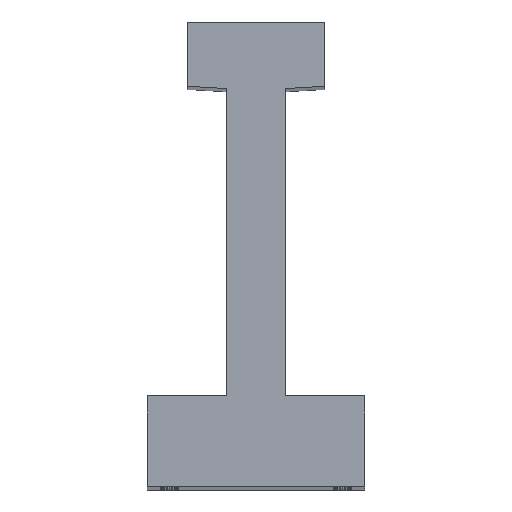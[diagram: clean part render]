
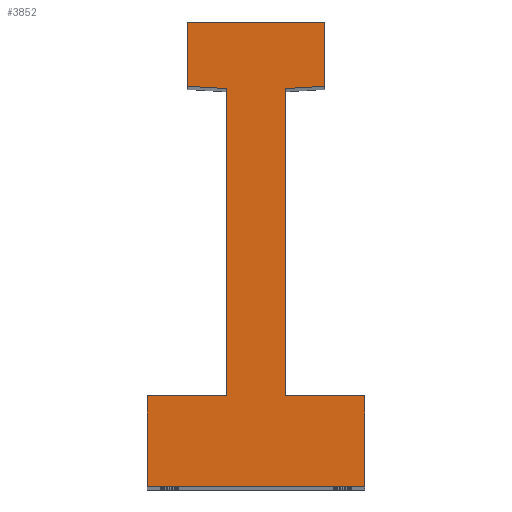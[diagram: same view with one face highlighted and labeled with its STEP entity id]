
A CAD part, top view. The second image highlights one B-rep face of the part: STEP entity #3852.
In plain terms, the highlighted planar face has unit normal (0, 0, 1).
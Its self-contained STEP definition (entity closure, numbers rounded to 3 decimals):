
#14 = VECTOR ( 'NONE', #4264, 1000. ) ;
#70 = ORIENTED_EDGE ( 'NONE', *, *, #1173, .T. ) ;
#71 = CARTESIAN_POINT ( 'NONE',  ( -6.6, 20.5, 210.5 ) ) ;
#72 = DIRECTION ( 'NONE',  ( -1., 0., 0. ) ) ;
#116 = ORIENTED_EDGE ( 'NONE', *, *, #222, .T. ) ;
#222 = EDGE_CURVE ( 'NONE', #2413, #1368, #4394, .T. ) ;
#235 = CARTESIAN_POINT ( 'NONE',  ( -24.5, 0., 210.5 ) ) ;
#237 = VERTEX_POINT ( 'NONE', #5593 ) ;
#339 = CARTESIAN_POINT ( 'NONE',  ( 6.6, 89.8, 210.5 ) ) ;
#385 = VERTEX_POINT ( 'NONE', #2598 ) ;
#404 = VERTEX_POINT ( 'NONE', #2123 ) ;
#445 = CARTESIAN_POINT ( 'NONE',  ( 6.6, 20.5, 210.5 ) ) ;
#447 = EDGE_LOOP ( 'NONE', ( #1781, #2787, #2635, #3631, #4020, #116, #3058, #3092, #5512, #3380, #2885, #70 ) ) ;
#464 = VECTOR ( 'NONE', #1644, 1000. ) ;
#480 = LINE ( 'NONE', #71, #897 ) ;
#600 = VECTOR ( 'NONE', #4961, 1000. ) ;
#675 = DIRECTION ( 'NONE',  ( 0., 0., 1. ) ) ;
#714 = DIRECTION ( 'NONE',  ( 1., 0., 0. ) ) ;
#783 = LINE ( 'NONE', #235, #2394 ) ;
#827 = CARTESIAN_POINT ( 'NONE',  ( -24.5, 20.5, 210.5 ) ) ;
#855 = CARTESIAN_POINT ( 'NONE',  ( -24.5, 0., 210.5 ) ) ;
#863 = EDGE_CURVE ( 'NONE', #2397, #1905, #5685, .T. ) ;
#897 = VECTOR ( 'NONE', #901, 1000. ) ;
#901 = DIRECTION ( 'NONE',  ( 0., -1., 0. ) ) ;
#933 = LINE ( 'NONE', #1376, #5645 ) ;
#949 = VERTEX_POINT ( 'NONE', #3549 ) ;
#1027 = EDGE_CURVE ( 'NONE', #385, #404, #4933, .T. ) ;
#1067 = EDGE_CURVE ( 'NONE', #2713, #385, #480, .T. ) ;
#1112 = CARTESIAN_POINT ( 'NONE',  ( -24.5, 0., 210.5 ) ) ;
#1173 = EDGE_CURVE ( 'NONE', #237, #4377, #2029, .T. ) ;
#1207 = CARTESIAN_POINT ( 'NONE',  ( -6.6, 89.8, 210.5 ) ) ;
#1241 = CARTESIAN_POINT ( 'NONE',  ( -15.5, 89.8, 210.5 ) ) ;
#1280 = DIRECTION ( 'NONE',  ( -1., 0., 0. ) ) ;
#1368 = VERTEX_POINT ( 'NONE', #2755 ) ;
#1376 = CARTESIAN_POINT ( 'NONE',  ( 15.5, 104.8, 210.5 ) ) ;
#1578 = DIRECTION ( 'NONE',  ( 0., 1., 0. ) ) ;
#1585 = CARTESIAN_POINT ( 'NONE',  ( 15.5, 104.8, 210.5 ) ) ;
#1597 = FACE_OUTER_BOUND ( 'NONE', #447, .T. ) ;
#1622 = PLANE ( 'NONE',  #1975 ) ;
#1644 = DIRECTION ( 'NONE',  ( -1., 0., 0. ) ) ;
#1667 = LINE ( 'NONE', #5696, #464 ) ;
#1748 = VECTOR ( 'NONE', #3037, 1000. ) ;
#1781 = ORIENTED_EDGE ( 'NONE', *, *, #5022, .F. ) ;
#1892 = CARTESIAN_POINT ( 'NONE',  ( 6.6, 20.5, 210.5 ) ) ;
#1905 = VERTEX_POINT ( 'NONE', #1585 ) ;
#1910 = EDGE_CURVE ( 'NONE', #4768, #2413, #783, .T. ) ;
#1925 = EDGE_CURVE ( 'NONE', #404, #4768, #2534, .T. ) ;
#1975 = AXIS2_PLACEMENT_3D ( 'NONE', #2986, #675, #714 ) ;
#2029 = LINE ( 'NONE', #1241, #1748 ) ;
#2123 = CARTESIAN_POINT ( 'NONE',  ( -24.5, 20.5, 210.5 ) ) ;
#2161 = VECTOR ( 'NONE', #5232, 1000. ) ;
#2217 = LINE ( 'NONE', #3255, #600 ) ;
#2370 = CARTESIAN_POINT ( 'NONE',  ( 15.5, 90.3, 210.5 ) ) ;
#2394 = VECTOR ( 'NONE', #3779, 1000. ) ;
#2397 = VERTEX_POINT ( 'NONE', #2370 ) ;
#2413 = VERTEX_POINT ( 'NONE', #4161 ) ;
#2534 = LINE ( 'NONE', #1112, #14 ) ;
#2598 = CARTESIAN_POINT ( 'NONE',  ( -6.6, 20.5, 210.5 ) ) ;
#2635 = ORIENTED_EDGE ( 'NONE', *, *, #1027, .T. ) ;
#2713 = VERTEX_POINT ( 'NONE', #1207 ) ;
#2755 = CARTESIAN_POINT ( 'NONE',  ( 24.5, 20.5, 210.5 ) ) ;
#2787 = ORIENTED_EDGE ( 'NONE', *, *, #1067, .T. ) ;
#2885 = ORIENTED_EDGE ( 'NONE', *, *, #3257, .T. ) ;
#2927 = CARTESIAN_POINT ( 'NONE',  ( 24.5, 0., 210.5 ) ) ;
#2986 = CARTESIAN_POINT ( 'NONE',  ( 0., 0., 210.5 ) ) ;
#2988 = LINE ( 'NONE', #445, #4452 ) ;
#3037 = DIRECTION ( 'NONE',  ( 0., -1., 0. ) ) ;
#3058 = ORIENTED_EDGE ( 'NONE', *, *, #4024, .T. ) ;
#3092 = ORIENTED_EDGE ( 'NONE', *, *, #5015, .T. ) ;
#3255 = CARTESIAN_POINT ( 'NONE',  ( -6.6, 89.8, 210.5 ) ) ;
#3257 = EDGE_CURVE ( 'NONE', #1905, #237, #933, .T. ) ;
#3278 = VECTOR ( 'NONE', #4706, 1000. ) ;
#3380 = ORIENTED_EDGE ( 'NONE', *, *, #863, .T. ) ;
#3410 = VECTOR ( 'NONE', #1280, 1000. ) ;
#3463 = VERTEX_POINT ( 'NONE', #1892 ) ;
#3549 = CARTESIAN_POINT ( 'NONE',  ( 6.6, 89.8, 210.5 ) ) ;
#3631 = ORIENTED_EDGE ( 'NONE', *, *, #1925, .T. ) ;
#3779 = DIRECTION ( 'NONE',  ( 1., 0., 0. ) ) ;
#3852 = ADVANCED_FACE ( 'NONE', ( #1597 ), #1622, .T. ) ;
#4002 = CARTESIAN_POINT ( 'NONE',  ( -15.5, 90.3, 210.5 ) ) ;
#4020 = ORIENTED_EDGE ( 'NONE', *, *, #1910, .T. ) ;
#4024 = EDGE_CURVE ( 'NONE', #1368, #3463, #1667, .T. ) ;
#4161 = CARTESIAN_POINT ( 'NONE',  ( 24.5, 0., 210.5 ) ) ;
#4264 = DIRECTION ( 'NONE',  ( 0., -1., 0. ) ) ;
#4326 = CARTESIAN_POINT ( 'NONE',  ( 15.5, 89.8, 210.5 ) ) ;
#4377 = VERTEX_POINT ( 'NONE', #4002 ) ;
#4394 = LINE ( 'NONE', #2927, #4924 ) ;
#4452 = VECTOR ( 'NONE', #4944, 1000. ) ;
#4706 = DIRECTION ( 'NONE',  ( 0., 1., 0. ) ) ;
#4768 = VERTEX_POINT ( 'NONE', #855 ) ;
#4823 = EDGE_CURVE ( 'NONE', #949, #2397, #5262, .T. ) ;
#4924 = VECTOR ( 'NONE', #1578, 1000. ) ;
#4933 = LINE ( 'NONE', #827, #3410 ) ;
#4944 = DIRECTION ( 'NONE',  ( 0., 1., 0. ) ) ;
#4961 = DIRECTION ( 'NONE',  ( -0.998, 0.056, 0. ) ) ;
#5015 = EDGE_CURVE ( 'NONE', #3463, #949, #2988, .T. ) ;
#5022 = EDGE_CURVE ( 'NONE', #2713, #4377, #2217, .T. ) ;
#5232 = DIRECTION ( 'NONE',  ( 0.998, 0.056, 0. ) ) ;
#5262 = LINE ( 'NONE', #339, #2161 ) ;
#5512 = ORIENTED_EDGE ( 'NONE', *, *, #4823, .T. ) ;
#5593 = CARTESIAN_POINT ( 'NONE',  ( -15.5, 104.8, 210.5 ) ) ;
#5645 = VECTOR ( 'NONE', #72, 1000. ) ;
#5685 = LINE ( 'NONE', #4326, #3278 ) ;
#5696 = CARTESIAN_POINT ( 'NONE',  ( 24.5, 20.5, 210.5 ) ) ;
